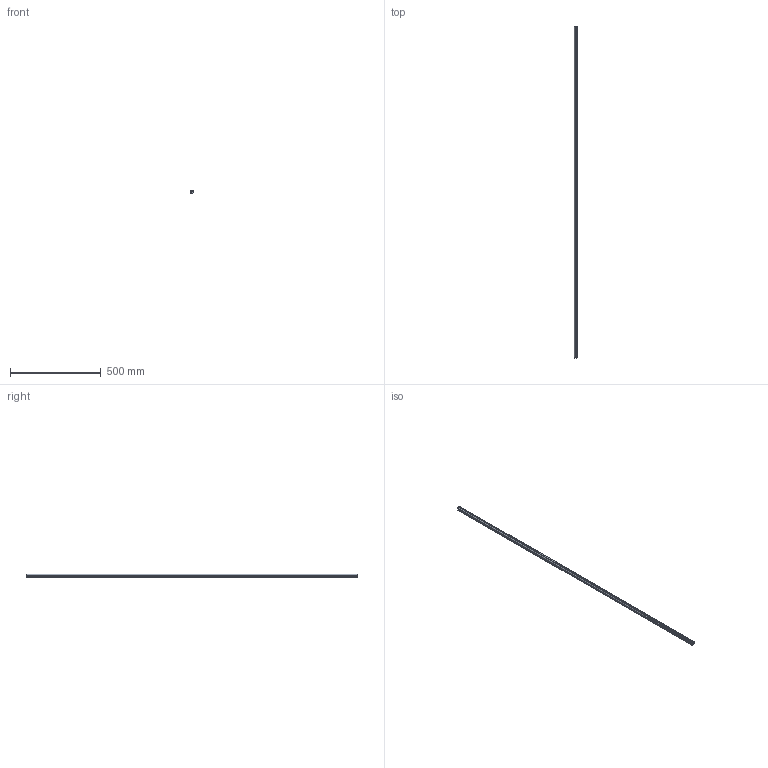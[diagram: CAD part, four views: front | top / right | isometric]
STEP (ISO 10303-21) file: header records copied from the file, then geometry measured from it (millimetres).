
FILE_DESCRIPTION (( 'STEP AP214' ), '1' );
FILE_NAME ('RKF-20080.STEP', '2023-05-14T13:43:07', ( '' ), ( '' ), 'SwSTEP 2.0', 'SolidWorks 2021', '' );
FILE_SCHEMA (( 'AUTOMOTIVE_DESIGN' ));
Length unit declared in the file: inch
Products named in the file (1): RKF-20080
Bounding box: 19.05 x 1828.8 x 19.05 mm (x, y, z)
Volume: 514539.3 mm3; surface area: 175370.4 mm2
Topology: 1 solids, 1 shells, 26 faces, 72 edges, 48 vertices
Faces by surface type: cylinder 15, plane 11
Entity records: 898 total; most frequent: DIRECTION 156, CARTESIAN_POINT 147, ORIENTED_EDGE 144, EDGE_CURVE 72, AXIS2_PLACEMENT_3D 57, VERTEX_POINT 48, LINE 42, VECTOR 42
